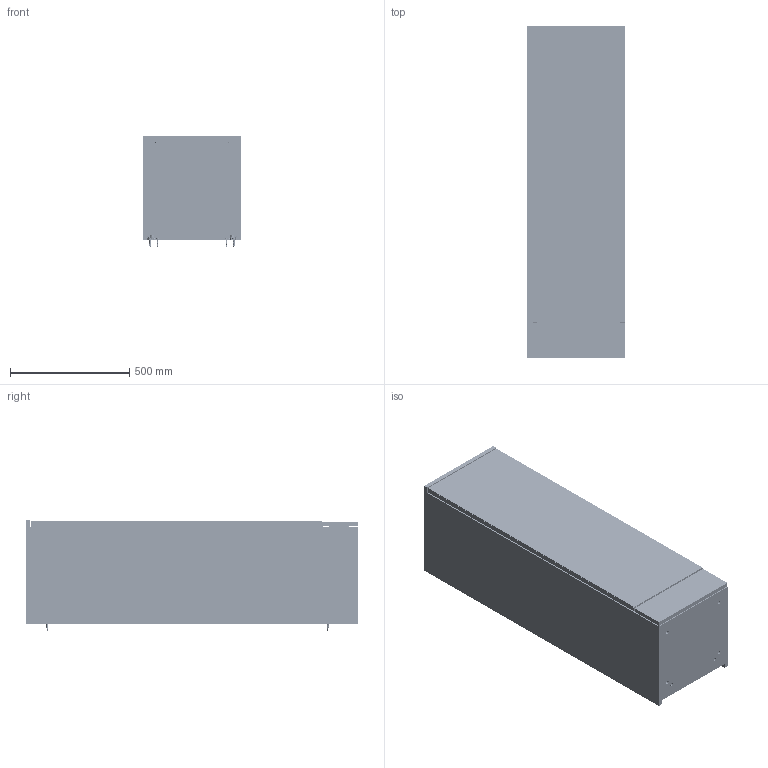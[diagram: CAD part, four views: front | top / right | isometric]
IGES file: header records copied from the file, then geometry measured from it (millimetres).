
Global section: file name: 3D Dosyası,; native system: Autodesk Inventor 2024; preprocessor: unknown; author: pc11; date: 20250709.163815; units: millimetre
Bounding box: 409 x 1390 x 467.1 mm (x, y, z)
Volume: 63838383.4 mm3; surface area: 9847688.2 mm2
Topology: 89 solids, 97 shells, 6968 faces, 18593 edges, 11864 vertices
Faces by surface type: bspline 6968
